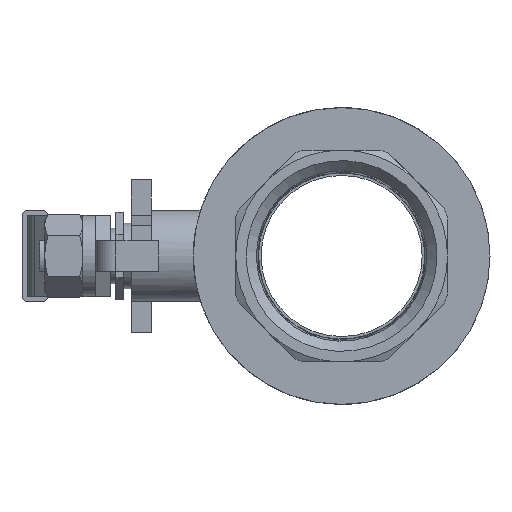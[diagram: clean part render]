
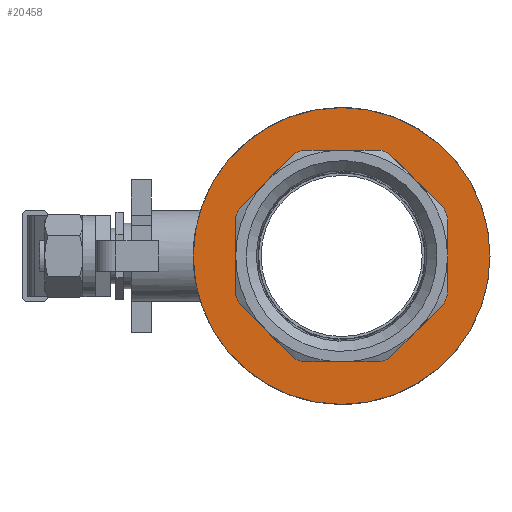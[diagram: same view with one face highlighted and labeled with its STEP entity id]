
A CAD part, left-side view. The second image highlights one B-rep face of the part: STEP entity #20458.
In plain terms, the highlighted planar face has unit normal (-1, 0, 0).
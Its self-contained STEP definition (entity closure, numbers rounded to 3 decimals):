
#390=FACE_BOUND('',#3330,.T.);
#1204=PLANE('',#21595);
#2243=FACE_OUTER_BOUND('',#3329,.T.);
#3329=EDGE_LOOP('',(#18237));
#3330=EDGE_LOOP('',(#18238,#18239,#18240,#18241,#18242,#18243,#18244,#18245,
#18246,#18247,#18248,#18249,#18250,#18251,#18252,#18253));
#5667=LINE('',#33228,#8012);
#5671=LINE('',#33237,#8016);
#5674=LINE('',#33245,#8019);
#5679=LINE('',#33259,#8024);
#5681=LINE('',#33263,#8026);
#5683=LINE('',#33268,#8028);
#5686=LINE('',#33273,#8031);
#5687=LINE('',#33276,#8032);
#8012=VECTOR('',#26096,10.);
#8016=VECTOR('',#26106,10.);
#8019=VECTOR('',#26115,10.);
#8024=VECTOR('',#26130,10.);
#8026=VECTOR('',#26134,10.);
#8028=VECTOR('',#26138,10.);
#8031=VECTOR('',#26143,10.);
#8032=VECTOR('',#26146,10.);
#8224=CIRCLE('',#21578,44.5);
#8225=CIRCLE('',#21581,44.5);
#8226=CIRCLE('',#21584,44.5);
#8227=CIRCLE('',#21587,44.5);
#8228=CIRCLE('',#21589,44.5);
#8229=CIRCLE('',#21596,58.5);
#8230=CIRCLE('',#21597,44.5);
#8231=CIRCLE('',#21598,44.5);
#8232=CIRCLE('',#21599,44.5);
#10046=VERTEX_POINT('',#33221);
#10047=VERTEX_POINT('',#33223);
#10048=VERTEX_POINT('',#33227);
#10049=VERTEX_POINT('',#33231);
#10050=VERTEX_POINT('',#33233);
#10051=VERTEX_POINT('',#33239);
#10052=VERTEX_POINT('',#33241);
#10053=VERTEX_POINT('',#33247);
#10054=VERTEX_POINT('',#33249);
#10055=VERTEX_POINT('',#33253);
#10056=VERTEX_POINT('',#33255);
#10057=VERTEX_POINT('',#33261);
#10058=VERTEX_POINT('',#33265);
#10059=VERTEX_POINT('',#33267);
#10060=VERTEX_POINT('',#33271);
#10061=VERTEX_POINT('',#33275);
#10062=VERTEX_POINT('',#33279);
#12778=EDGE_CURVE('',#10047,#10046,#8224,.T.);
#12780=EDGE_CURVE('',#10048,#10047,#5667,.T.);
#12783=EDGE_CURVE('',#10050,#10049,#8225,.T.);
#12785=EDGE_CURVE('',#10046,#10050,#5671,.T.);
#12787=EDGE_CURVE('',#10052,#10051,#8226,.T.);
#12789=EDGE_CURVE('',#10049,#10052,#5674,.T.);
#12791=EDGE_CURVE('',#10054,#10053,#8227,.T.);
#12794=EDGE_CURVE('',#10056,#10055,#8228,.T.);
#12796=EDGE_CURVE('',#10051,#10056,#5679,.T.);
#12798=EDGE_CURVE('',#10055,#10057,#5681,.T.);
#12800=EDGE_CURVE('',#10059,#10058,#5683,.T.);
#12803=EDGE_CURVE('',#10053,#10060,#5686,.T.);
#12804=EDGE_CURVE('',#10061,#10054,#5687,.T.);
#12806=EDGE_CURVE('',#10062,#10062,#8229,.T.);
#12807=EDGE_CURVE('',#10057,#10061,#8230,.T.);
#12808=EDGE_CURVE('',#10060,#10059,#8231,.T.);
#12809=EDGE_CURVE('',#10058,#10048,#8232,.T.);
#18237=ORIENTED_EDGE('',*,*,#12806,.F.);
#18238=ORIENTED_EDGE('',*,*,#12783,.T.);
#18239=ORIENTED_EDGE('',*,*,#12789,.T.);
#18240=ORIENTED_EDGE('',*,*,#12787,.T.);
#18241=ORIENTED_EDGE('',*,*,#12796,.T.);
#18242=ORIENTED_EDGE('',*,*,#12794,.T.);
#18243=ORIENTED_EDGE('',*,*,#12798,.T.);
#18244=ORIENTED_EDGE('',*,*,#12807,.T.);
#18245=ORIENTED_EDGE('',*,*,#12804,.T.);
#18246=ORIENTED_EDGE('',*,*,#12791,.T.);
#18247=ORIENTED_EDGE('',*,*,#12803,.T.);
#18248=ORIENTED_EDGE('',*,*,#12808,.T.);
#18249=ORIENTED_EDGE('',*,*,#12800,.T.);
#18250=ORIENTED_EDGE('',*,*,#12809,.T.);
#18251=ORIENTED_EDGE('',*,*,#12780,.T.);
#18252=ORIENTED_EDGE('',*,*,#12778,.T.);
#18253=ORIENTED_EDGE('',*,*,#12785,.T.);
#20458=ADVANCED_FACE('',(#2243,#390),#1204,.T.);
#21578=AXIS2_PLACEMENT_3D('',#33224,#26091,#26092);
#21581=AXIS2_PLACEMENT_3D('',#33234,#26101,#26102);
#21584=AXIS2_PLACEMENT_3D('',#33242,#26110,#26111);
#21587=AXIS2_PLACEMENT_3D('',#33250,#26119,#26120);
#21589=AXIS2_PLACEMENT_3D('',#33256,#26125,#26126);
#21595=AXIS2_PLACEMENT_3D('',#33278,#26148,#26149);
#21596=AXIS2_PLACEMENT_3D('',#33280,#26150,#26151);
#21597=AXIS2_PLACEMENT_3D('',#33281,#26152,#26153);
#21598=AXIS2_PLACEMENT_3D('',#33282,#26154,#26155);
#21599=AXIS2_PLACEMENT_3D('',#33283,#26156,#26157);
#26091=DIRECTION('center_axis',(1.,0.,0.));
#26092=DIRECTION('ref_axis',(0.,1.,0.));
#26096=DIRECTION('',(0.,1.,0.));
#26101=DIRECTION('center_axis',(1.,0.,0.));
#26102=DIRECTION('ref_axis',(0.,1.,0.));
#26106=DIRECTION('',(0.,0.707,0.707));
#26110=DIRECTION('center_axis',(1.,0.,0.));
#26111=DIRECTION('ref_axis',(0.,1.,0.));
#26115=DIRECTION('',(0.,0.,1.));
#26119=DIRECTION('center_axis',(1.,0.,0.));
#26120=DIRECTION('ref_axis',(0.,1.,0.));
#26125=DIRECTION('center_axis',(1.,0.,0.));
#26126=DIRECTION('ref_axis',(0.,1.,0.));
#26130=DIRECTION('',(0.,-0.707,0.707));
#26134=DIRECTION('',(0.,-1.,0.));
#26138=DIRECTION('',(0.,0.707,-0.707));
#26143=DIRECTION('',(0.,0.,-1.));
#26146=DIRECTION('',(0.,-0.707,-0.707));
#26148=DIRECTION('center_axis',(-1.,0.,0.));
#26149=DIRECTION('ref_axis',(0.,0.,1.));
#26150=DIRECTION('center_axis',(1.,0.,0.));
#26151=DIRECTION('ref_axis',(0.,1.,0.));
#26152=DIRECTION('center_axis',(1.,0.,0.));
#26153=DIRECTION('ref_axis',(0.,1.,0.));
#26154=DIRECTION('center_axis',(1.,0.,0.));
#26155=DIRECTION('ref_axis',(0.,1.,0.));
#26156=DIRECTION('center_axis',(1.,0.,0.));
#26157=DIRECTION('ref_axis',(0.,1.,0.));
#33221=CARTESIAN_POINT('',(-162.806,5.566,-40.412));
#33223=CARTESIAN_POINT('',(-162.806,2.335,-41.75));
#33224=CARTESIAN_POINT('Origin',(-162.806,-13.065,0.));
#33227=CARTESIAN_POINT('',(-162.806,-28.466,-41.75));
#33228=CARTESIAN_POINT('',(-162.806,-30.359,-41.75));
#33231=CARTESIAN_POINT('',(-162.806,28.685,-15.401));
#33233=CARTESIAN_POINT('',(-162.806,27.346,-18.632));
#33234=CARTESIAN_POINT('Origin',(-162.806,-13.065,0.));
#33237=CARTESIAN_POINT('',(-162.806,4.228,-41.75));
#33239=CARTESIAN_POINT('',(-162.806,27.346,18.632));
#33241=CARTESIAN_POINT('',(-162.806,28.685,15.401));
#33242=CARTESIAN_POINT('Origin',(-162.806,-13.065,0.));
#33245=CARTESIAN_POINT('',(-162.806,28.685,-17.293));
#33247=CARTESIAN_POINT('',(-162.806,-54.815,15.401));
#33249=CARTESIAN_POINT('',(-162.806,-53.477,18.632));
#33250=CARTESIAN_POINT('Origin',(-162.806,-13.065,0.));
#33253=CARTESIAN_POINT('',(-162.806,2.335,41.75));
#33255=CARTESIAN_POINT('',(-162.806,5.566,40.412));
#33256=CARTESIAN_POINT('Origin',(-162.806,-13.065,0.));
#33259=CARTESIAN_POINT('',(-162.806,28.685,17.293));
#33261=CARTESIAN_POINT('',(-162.806,-28.466,41.75));
#33263=CARTESIAN_POINT('',(-162.806,4.228,41.75));
#33265=CARTESIAN_POINT('',(-162.806,-31.697,-40.412));
#33267=CARTESIAN_POINT('',(-162.806,-53.477,-18.632));
#33268=CARTESIAN_POINT('',(-162.806,-54.815,-17.293));
#33271=CARTESIAN_POINT('',(-162.806,-54.815,-15.401));
#33273=CARTESIAN_POINT('',(-162.806,-54.815,17.293));
#33275=CARTESIAN_POINT('',(-162.806,-31.697,40.412));
#33276=CARTESIAN_POINT('',(-162.806,-30.359,41.75));
#33278=CARTESIAN_POINT('Origin',(-162.806,38.435,0.));
#33279=CARTESIAN_POINT('',(-162.806,-71.565,0.));
#33280=CARTESIAN_POINT('Origin',(-162.806,-13.065,0.));
#33281=CARTESIAN_POINT('Origin',(-162.806,-13.065,0.));
#33282=CARTESIAN_POINT('Origin',(-162.806,-13.065,0.));
#33283=CARTESIAN_POINT('Origin',(-162.806,-13.065,0.));
